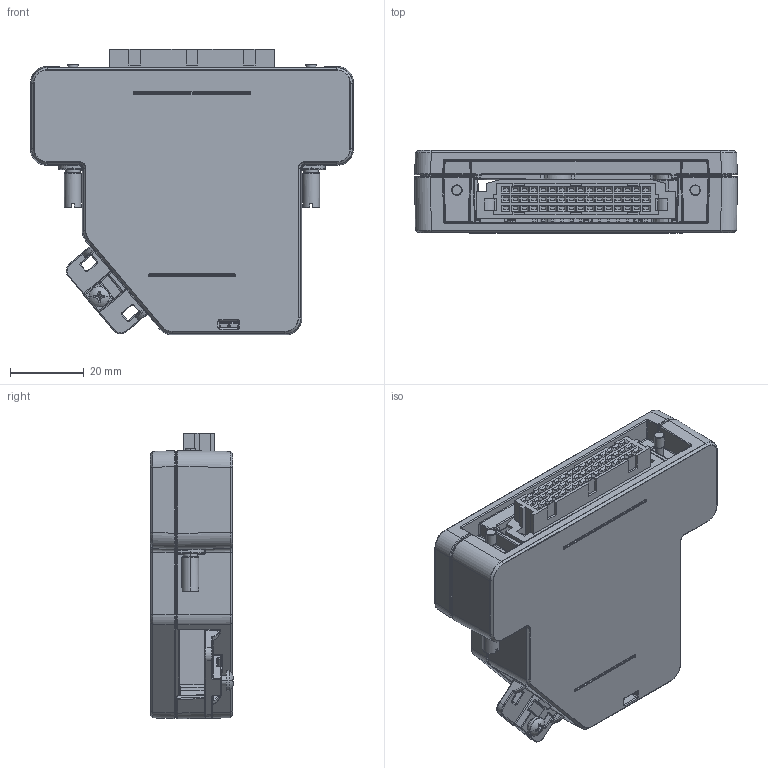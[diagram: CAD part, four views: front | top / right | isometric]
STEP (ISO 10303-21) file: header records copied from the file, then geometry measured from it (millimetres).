
FILE_DESCRIPTION((''),'2;1');
FILE_NAME('CU_NI_TB-9214','2013-02-18T',('dkendric'),(''),'PRO/ENGINEER BY PARAMETRIC TECHNOLOGY CORPORATION, 2011490','PRO/ENGINEER BY PARAMETRIC TECHNOLOGY CORPORATION, 2011490','');
FILE_SCHEMA(('CONFIG_CONTROL_DESIGN'));
Products named in the file (1): CU_NI_TB-9214
Bounding box: 87.77 x 22.63 x 77.6 mm (x, y, z)
Volume: 33624.5 mm3; surface area: 35910.6 mm2
Topology: 3 solids, 3 shells, 3209 faces, 7925 edges, 4805 vertices
Faces by surface type: plane 1427, cylinder 1152, bspline 410, sphere 140, cone 42, torus 38
Entity records: 120373 total; most frequent: CARTESIAN_POINT 46737, ORIENTED_EDGE 15810, DIRECTION 14665, EDGE_CURVE 7905, AXIS2_PLACEMENT_3D 4916, VECTOR 4833, LINE 4833, VERTEX_POINT 4824
